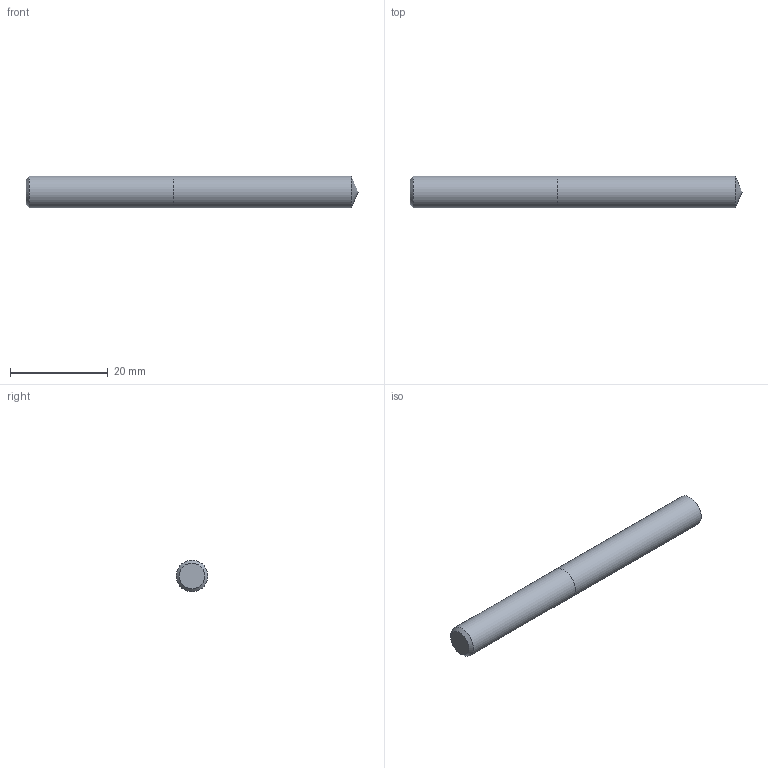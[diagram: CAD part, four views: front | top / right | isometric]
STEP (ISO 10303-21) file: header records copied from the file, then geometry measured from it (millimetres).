
FILE_DESCRIPTION (( 'STEP AP214' ), '1' );
FILE_NAME ('03-2322.STEP', '2022-06-03T06:11:55', ( 'USER' ), ( '' ), 'SwSTEP 2.0', 'SolidWorks 2018', '' );
FILE_SCHEMA (( 'AUTOMOTIVE_DESIGN' ));
Length unit declared in the file: inch
Products named in the file (1): 03-2322
Bounding box: 68.03 x 6.53 x 6.53 mm (x, y, z)
Volume: 2242.5 mm3; surface area: 1495.6 mm2
Topology: 2 solids, 2 shells, 7 faces, 11 edges, 7 vertices
Faces by surface type: plane 3, cylinder 2, cone 2
Full cylindrical faces by diameter (mm): 6.528 x2
Entity records: 214 total; most frequent: DIRECTION 26, CARTESIAN_POINT 18, AXIS2_PLACEMENT_3D 13, EDGE_LOOP 10, ORIENTED_EDGE 10, FACE_OUTER_BOUND 9, LENGTH_MEASURE_WITH_UNIT 7, ADVANCED_FACE 7
